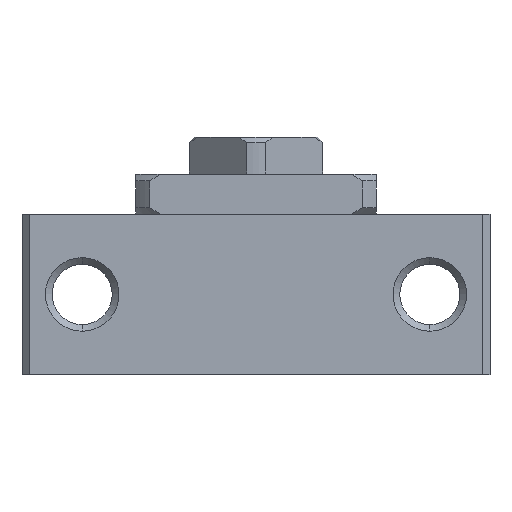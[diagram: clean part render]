
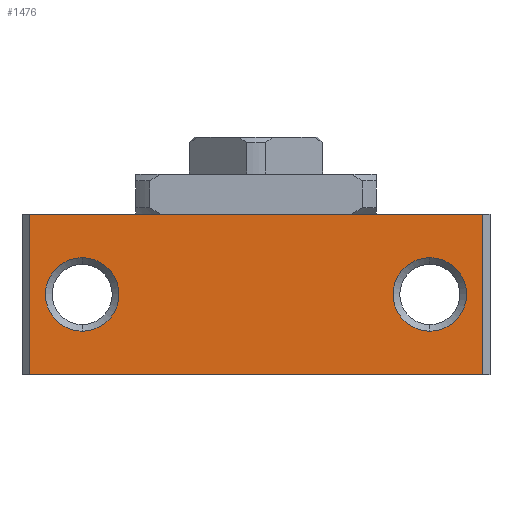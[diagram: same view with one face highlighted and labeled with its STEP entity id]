
A CAD part, front view. The second image highlights one B-rep face of the part: STEP entity #1476.
In plain terms, the highlighted planar face has unit normal (0, -1, 0).
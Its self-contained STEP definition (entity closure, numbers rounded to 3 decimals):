
#1 = VECTOR ( 'NONE', #3091, 1000. ) ;
#41 = LINE ( 'NONE', #1211, #3342 ) ;
#98 = CARTESIAN_POINT ( 'NONE',  ( 33.92, -25., 0. ) ) ;
#352 = VERTEX_POINT ( 'NONE', #2555 ) ;
#369 = LINE ( 'NONE', #7546, #2190 ) ;
#383 = ORIENTED_EDGE ( 'NONE', *, *, #3042, .T. ) ;
#415 = EDGE_LOOP ( 'NONE', ( #441, #4788 ) ) ;
#441 = ORIENTED_EDGE ( 'NONE', *, *, #4176, .F. ) ;
#691 = CARTESIAN_POINT ( 'NONE',  ( -33.92, -25., -24. ) ) ;
#757 = DIRECTION ( 'NONE',  ( 0., -1., 0. ) ) ;
#783 = EDGE_CURVE ( 'NONE', #6388, #2052, #3379, .T. ) ;
#789 = CARTESIAN_POINT ( 'NONE',  ( -33.92, -25., -24. ) ) ;
#1211 = CARTESIAN_POINT ( 'NONE',  ( -33.92, -25., 0. ) ) ;
#1301 = LINE ( 'NONE', #691, #1 ) ;
#1363 = PLANE ( 'NONE',  #5707 ) ;
#1434 = EDGE_CURVE ( 'NONE', #5495, #5776, #4908, .T. ) ;
#1435 = AXIS2_PLACEMENT_3D ( 'NONE', #4362, #757, #6746 ) ;
#1476 = ADVANCED_FACE ( 'NONE', ( #2649, #3255, #6743 ), #1363, .T. ) ;
#2052 = VERTEX_POINT ( 'NONE', #6088 ) ;
#2099 = EDGE_CURVE ( 'NONE', #7586, #3174, #369, .T. ) ;
#2121 = ORIENTED_EDGE ( 'NONE', *, *, #2099, .F. ) ;
#2190 = VECTOR ( 'NONE', #5626, 1000. ) ;
#2282 = ORIENTED_EDGE ( 'NONE', *, *, #3264, .F. ) ;
#2471 = CIRCLE ( 'NONE', #3463, 5.5 ) ;
#2554 = EDGE_CURVE ( 'NONE', #352, #2596, #2471, .T. ) ;
#2555 = CARTESIAN_POINT ( 'NONE',  ( 26., -25., -17.5 ) ) ;
#2596 = VERTEX_POINT ( 'NONE', #3998 ) ;
#2649 = FACE_BOUND ( 'NONE', #4189, .T. ) ;
#2922 = ORIENTED_EDGE ( 'NONE', *, *, #1434, .T. ) ;
#2972 = DIRECTION ( 'NONE',  ( 0., -1., 0. ) ) ;
#3042 = EDGE_CURVE ( 'NONE', #7586, #5495, #1301, .T. ) ;
#3091 = DIRECTION ( 'NONE',  ( 1., 0., 0. ) ) ;
#3174 = VERTEX_POINT ( 'NONE', #4235 ) ;
#3186 = DIRECTION ( 'NONE',  ( 0., 0., -1. ) ) ;
#3255 = FACE_BOUND ( 'NONE', #415, .T. ) ;
#3264 = EDGE_CURVE ( 'NONE', #3174, #5776, #41, .T. ) ;
#3342 = VECTOR ( 'NONE', #3584, 1000. ) ;
#3379 = CIRCLE ( 'NONE', #3627, 5.5 ) ;
#3463 = AXIS2_PLACEMENT_3D ( 'NONE', #6816, #4472, #3839 ) ;
#3584 = DIRECTION ( 'NONE',  ( 1., 0., 0. ) ) ;
#3617 = AXIS2_PLACEMENT_3D ( 'NONE', #4989, #5025, #6787 ) ;
#3627 = AXIS2_PLACEMENT_3D ( 'NONE', #7158, #2972, #5348 ) ;
#3726 = DIRECTION ( 'NONE',  ( 0., -1., 0. ) ) ;
#3839 = DIRECTION ( 'NONE',  ( 0., 0., -1. ) ) ;
#3998 = CARTESIAN_POINT ( 'NONE',  ( 26., -25., -6.5 ) ) ;
#4176 = EDGE_CURVE ( 'NONE', #2596, #352, #4626, .T. ) ;
#4189 = EDGE_LOOP ( 'NONE', ( #5822, #4666 ) ) ;
#4235 = CARTESIAN_POINT ( 'NONE',  ( -33.92, -25., 0. ) ) ;
#4318 = DIRECTION ( 'NONE',  ( 0., 0., 1. ) ) ;
#4362 = CARTESIAN_POINT ( 'NONE',  ( -26., -25., -12. ) ) ;
#4472 = DIRECTION ( 'NONE',  ( 0., -1., 0. ) ) ;
#4626 = CIRCLE ( 'NONE', #3617, 5.5 ) ;
#4666 = ORIENTED_EDGE ( 'NONE', *, *, #783, .F. ) ;
#4788 = ORIENTED_EDGE ( 'NONE', *, *, #2554, .F. ) ;
#4908 = LINE ( 'NONE', #5610, #6953 ) ;
#4989 = CARTESIAN_POINT ( 'NONE',  ( 26., -25., -12. ) ) ;
#5025 = DIRECTION ( 'NONE',  ( 0., -1., 0. ) ) ;
#5184 = CARTESIAN_POINT ( 'NONE',  ( -33.92, -25., -24. ) ) ;
#5348 = DIRECTION ( 'NONE',  ( 0., 0., -1. ) ) ;
#5429 = EDGE_LOOP ( 'NONE', ( #2282, #2121, #383, #2922 ) ) ;
#5495 = VERTEX_POINT ( 'NONE', #6272 ) ;
#5610 = CARTESIAN_POINT ( 'NONE',  ( 33.92, -25., -24. ) ) ;
#5626 = DIRECTION ( 'NONE',  ( 0., 0., 1. ) ) ;
#5707 = AXIS2_PLACEMENT_3D ( 'NONE', #789, #3726, #3186 ) ;
#5776 = VERTEX_POINT ( 'NONE', #98 ) ;
#5822 = ORIENTED_EDGE ( 'NONE', *, *, #6071, .F. ) ;
#6071 = EDGE_CURVE ( 'NONE', #2052, #6388, #6914, .T. ) ;
#6088 = CARTESIAN_POINT ( 'NONE',  ( -26., -25., -6.5 ) ) ;
#6272 = CARTESIAN_POINT ( 'NONE',  ( 33.92, -25., -24. ) ) ;
#6388 = VERTEX_POINT ( 'NONE', #7602 ) ;
#6743 = FACE_OUTER_BOUND ( 'NONE', #5429, .T. ) ;
#6746 = DIRECTION ( 'NONE',  ( 0., 0., -1. ) ) ;
#6787 = DIRECTION ( 'NONE',  ( 0., 0., -1. ) ) ;
#6816 = CARTESIAN_POINT ( 'NONE',  ( 26., -25., -12. ) ) ;
#6914 = CIRCLE ( 'NONE', #1435, 5.5 ) ;
#6953 = VECTOR ( 'NONE', #4318, 1000. ) ;
#7158 = CARTESIAN_POINT ( 'NONE',  ( -26., -25., -12. ) ) ;
#7546 = CARTESIAN_POINT ( 'NONE',  ( -33.92, -25., -24. ) ) ;
#7586 = VERTEX_POINT ( 'NONE', #5184 ) ;
#7602 = CARTESIAN_POINT ( 'NONE',  ( -26., -25., -17.5 ) ) ;
